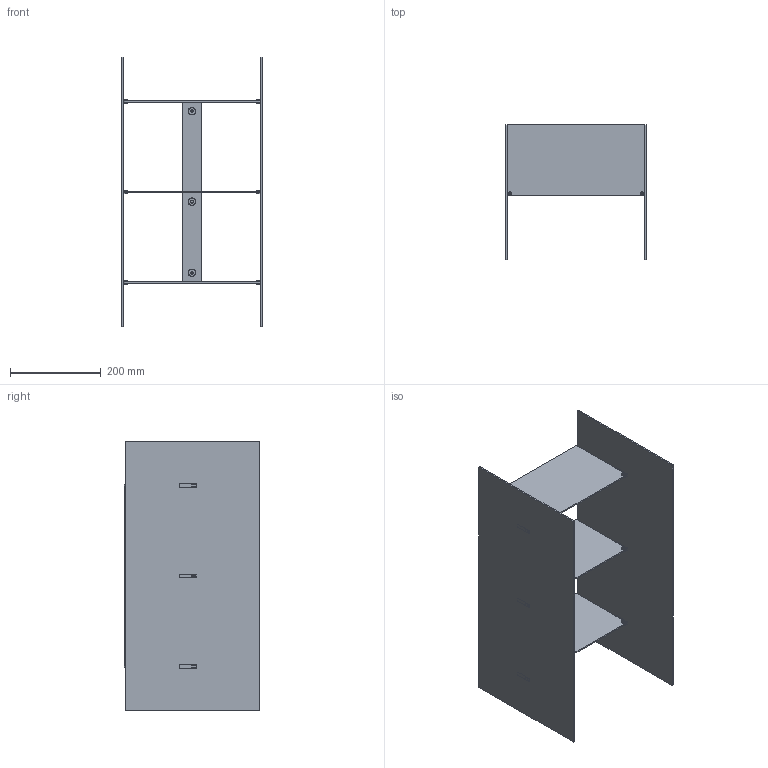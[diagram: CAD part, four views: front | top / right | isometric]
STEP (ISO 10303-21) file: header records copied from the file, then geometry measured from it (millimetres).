
FILE_DESCRIPTION(/* description */ (''),/* implementation_level */ '2;1');
FILE_NAME(/* name */ '251209_Sheet Cabinet_3D',/* time_stamp */ '2025-12-09T15:20:22+01:00',/* author */ (''),/* organization */ (''),/* preprocessor_version */ 'ST-DEVELOPER v16.5',/* originating_system */ 'Rhino 7.38',/* authorisation */ '');
FILE_SCHEMA (('CONFIG_CONTROL_DESIGN'));
Length unit declared in the file: millimetre
Products named in the file (1): Document
Bounding box: 310 x 299.5 x 596 mm (x, y, z)
Volume: 1807167.2 mm3; surface area: 1072019.8 mm2
Topology: 15 solids, 15 shells, 411 faces, 972 edges, 594 vertices
Faces by surface type: plane 181, cylinder 116, bspline 114
Entity records: 12033 total; most frequent: CARTESIAN_POINT 5649, ORIENTED_EDGE 1944, EDGE_CURVE 972, VERTEX_POINT 594, B_SPLINE_CURVE_WITH_KNOTS 504, EDGE_LOOP 468, ADVANCED_FACE 411, FACE_OUTER_BOUND 411
